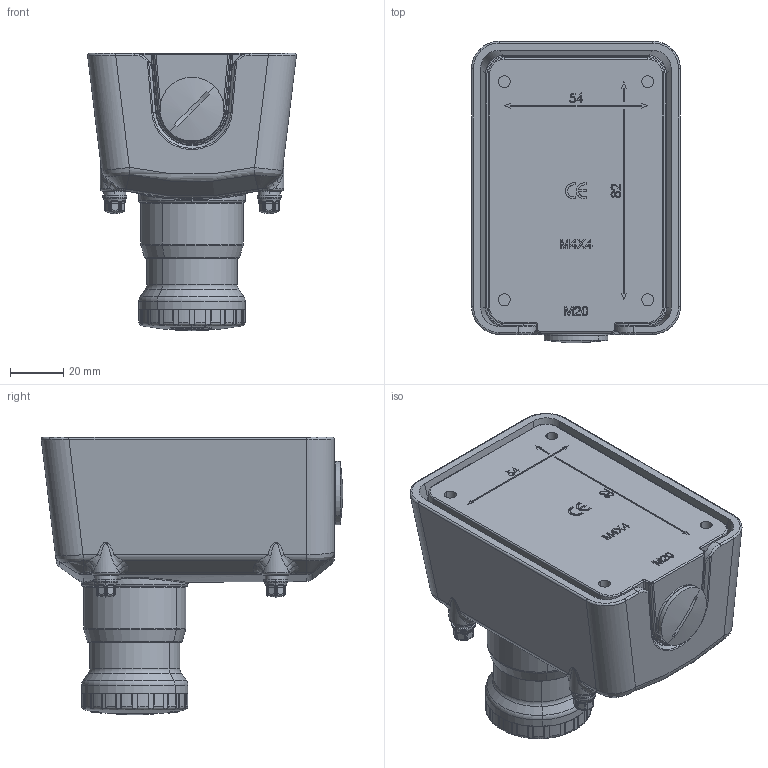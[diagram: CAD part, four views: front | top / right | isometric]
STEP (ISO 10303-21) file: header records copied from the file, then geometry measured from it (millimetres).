
FILE_DESCRIPTION (( 'STEP AP203' ), '1' );
FILE_NAME ('ES-SS-HD.STEP', '2020-11-11T16:22:39', ( '' ), ( '' ), 'SwSTEP 2.0', 'SolidWorks 2021', '' );
FILE_SCHEMA (( 'CONFIG_CONTROL_DESIGN' ));
Length unit declared in the file: millimetre
Products named in the file (1): ES-SS-HD
Bounding box: 78.57 x 113.42 x 104.3 mm (x, y, z)
Volume: 235222.5 mm3; surface area: 120425.1 mm2
Topology: 25 solids, 26 shells, 2791 faces, 6821 edges, 4076 vertices
Faces by surface type: cylinder 1055, plane 648, torus 426, bspline 418, cone 142, sphere 102
Entity records: 122637 total; most frequent: CARTESIAN_POINT 60513, ORIENTED_EDGE 13462, DIRECTION 12677, EDGE_CURVE 6731, AXIS2_PLACEMENT_3D 5095, VERTEX_POINT 4071, EDGE_LOOP 2928, ADVANCED_FACE 2791
